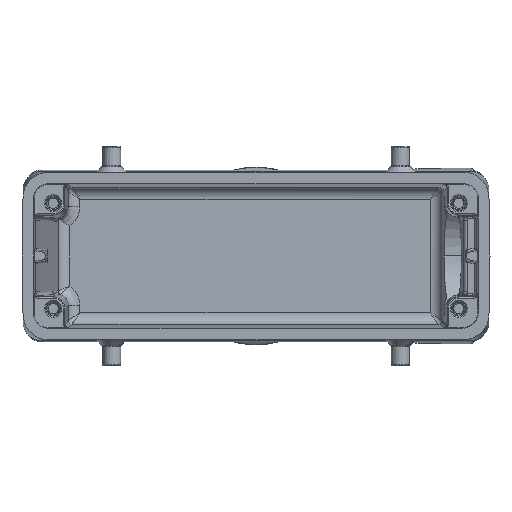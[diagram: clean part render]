
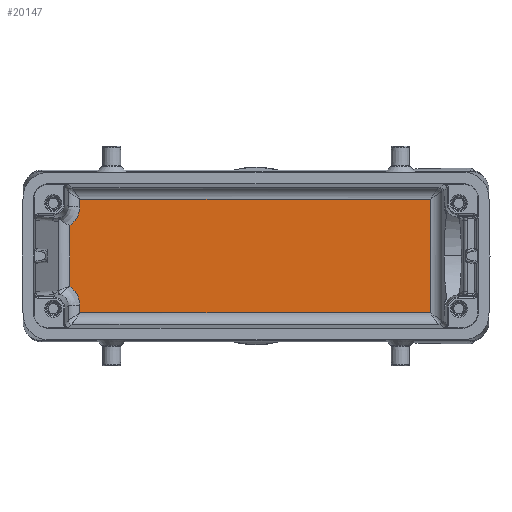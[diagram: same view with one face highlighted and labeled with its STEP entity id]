
A CAD part, front view. The second image highlights one B-rep face of the part: STEP entity #20147.
In plain terms, the highlighted planar face has unit normal (0, -1, 0).
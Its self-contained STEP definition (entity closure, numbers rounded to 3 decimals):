
#158 = CARTESIAN_POINT ( 'NONE',  ( -45.25, 70., -11.727 ) ) ;
#241 = VECTOR ( 'NONE', #23149, 1000. ) ;
#258 = CARTESIAN_POINT ( 'NONE',  ( -45.425, 70., -11.028 ) ) ;
#425 = AXIS2_PLACEMENT_3D ( 'NONE', #1346, #3840, #15683 ) ;
#464 = ORIENTED_EDGE ( 'NONE', *, *, #24510, .T. ) ;
#612 = CARTESIAN_POINT ( 'NONE',  ( -265.727, 70., 14.564 ) ) ;
#1346 = CARTESIAN_POINT ( 'NONE',  ( -51.563, 70., -18.5 ) ) ;
#2339 = CARTESIAN_POINT ( 'NONE',  ( -46.367, 70., -9.091 ) ) ;
#2389 = LINE ( 'NONE', #4407, #4232 ) ;
#2835 = VERTEX_POINT ( 'NONE', #27180 ) ;
#3140 = CARTESIAN_POINT ( 'NONE',  ( -45.191, 70., 12.691 ) ) ;
#3221 = VECTOR ( 'NONE', #9289, 1000. ) ;
#3299 = LINE ( 'NONE', #6672, #4053 ) ;
#3555 = CARTESIAN_POINT ( 'NONE',  ( -46.607, 70., 8.818 ) ) ;
#3676 = VERTEX_POINT ( 'NONE', #8709 ) ;
#3840 = DIRECTION ( 'NONE',  ( 0., -1., 0. ) ) ;
#3945 = LINE ( 'NONE', #6294, #241 ) ;
#4053 = VECTOR ( 'NONE', #21072, 1000. ) ;
#4232 = VECTOR ( 'NONE', #14178, 1000. ) ;
#4407 = CARTESIAN_POINT ( 'NONE',  ( -45.191, 70., -18.5 ) ) ;
#4717 = CARTESIAN_POINT ( 'NONE',  ( -47.759, 70.011, -7.769 ) ) ;
#4916 = CARTESIAN_POINT ( 'NONE',  ( -45.191, 70., -12.691 ) ) ;
#5228 = EDGE_CURVE ( 'NONE', #13120, #10876, #3299, .T. ) ;
#5580 = ORIENTED_EDGE ( 'NONE', *, *, #5228, .T. ) ;
#6213 = CARTESIAN_POINT ( 'NONE',  ( -45.267, 70., 11.731 ) ) ;
#6294 = CARTESIAN_POINT ( 'NONE',  ( -47.759, 70., -18.5 ) ) ;
#6672 = CARTESIAN_POINT ( 'NONE',  ( -45.191, 70., -18.5 ) ) ;
#6923 = CARTESIAN_POINT ( 'NONE',  ( -51.563, 70., -14.564 ) ) ;
#6940 = LINE ( 'NONE', #612, #22764 ) ;
#7087 = CARTESIAN_POINT ( 'NONE',  ( -45.191, 70., 12.691 ) ) ;
#7211 = ORIENTED_EDGE ( 'NONE', *, *, #17647, .T. ) ;
#7277 = VERTEX_POINT ( 'NONE', #30558 ) ;
#7696 = EDGE_CURVE ( 'NONE', #10876, #25851, #28253, .T. ) ;
#7795 = CARTESIAN_POINT ( 'NONE',  ( -45.191, 70., -14.564 ) ) ;
#7988 = EDGE_CURVE ( 'NONE', #30226, #3676, #3945, .T. ) ;
#8169 = CARTESIAN_POINT ( 'NONE',  ( -45.31, 70., 11.495 ) ) ;
#8374 = CARTESIAN_POINT ( 'NONE',  ( -47.759, 70.013, 7.769 ) ) ;
#8471 = B_SPLINE_CURVE_WITH_KNOTS ( 'NONE', 3,
 ( #4717, #16562, #30560, #25895, #16455, #9542, #2339, #9652, #26094, #11808, #28270, #258, #25999, #158, #19032, #4916 ),
 .UNSPECIFIED., .F., .F.,
 ( 4, 1, 2, 2, 2, 1, 2, 2, 4 ),
 ( 0., 0.125, 0.188, 0.25, 0.5, 0.625, 0.688, 0.75, 1. ),
 .UNSPECIFIED. ) ;
#8709 = CARTESIAN_POINT ( 'NONE',  ( -47.759, 70.011, -7.769 ) ) ;
#9289 = DIRECTION ( 'NONE',  ( 1., 0., 0. ) ) ;
#9542 = CARTESIAN_POINT ( 'NONE',  ( -46.766, 70., -8.637 ) ) ;
#9652 = CARTESIAN_POINT ( 'NONE',  ( -46.095, 70., -9.488 ) ) ;
#10352 = LINE ( 'NONE', #30119, #18848 ) ;
#10548 = CARTESIAN_POINT ( 'NONE',  ( -47.003, 70., 8.368 ) ) ;
#10857 = CARTESIAN_POINT ( 'NONE',  ( -45.479, 70., 10.792 ) ) ;
#10876 = VERTEX_POINT ( 'NONE', #7795 ) ;
#11038 = CARTESIAN_POINT ( 'NONE',  ( -47.759, 70.013, 7.769 ) ) ;
#11808 = CARTESIAN_POINT ( 'NONE',  ( -45.613, 70., -10.458 ) ) ;
#12575 = DIRECTION ( 'NONE',  ( -1., 0., 0. ) ) ;
#13103 = VERTEX_POINT ( 'NONE', #7087 ) ;
#13104 = PLANE ( 'NONE',  #425 ) ;
#13120 = VERTEX_POINT ( 'NONE', #23758 ) ;
#13123 = CARTESIAN_POINT ( 'NONE',  ( -46.169, 70., 9.393 ) ) ;
#13637 = DIRECTION ( 'NONE',  ( 0., 0., 1. ) ) ;
#14178 = DIRECTION ( 'NONE',  ( 0., 0., -1. ) ) ;
#15008 = FACE_OUTER_BOUND ( 'NONE', #15726, .T. ) ;
#15159 = EDGE_CURVE ( 'NONE', #25851, #2835, #10352, .T. ) ;
#15591 = CARTESIAN_POINT ( 'NONE',  ( -46.381, 70., 9.102 ) ) ;
#15683 = DIRECTION ( 'NONE',  ( 0., 0., -1. ) ) ;
#15726 = EDGE_LOOP ( 'NONE', ( #5580, #19713, #17712, #26475, #30372, #464, #17132, #7211 ) ) ;
#16455 = CARTESIAN_POINT ( 'NONE',  ( -46.847, 70., -8.551 ) ) ;
#16562 = CARTESIAN_POINT ( 'NONE',  ( -47.56, 70., -7.909 ) ) ;
#17132 = ORIENTED_EDGE ( 'NONE', *, *, #7988, .T. ) ;
#17647 = EDGE_CURVE ( 'NONE', #3676, #13120, #8471, .T. ) ;
#17712 = ORIENTED_EDGE ( 'NONE', *, *, #15159, .T. ) ;
#17762 = CARTESIAN_POINT ( 'NONE',  ( -45.649, 70., 10.342 ) ) ;
#18089 = CARTESIAN_POINT ( 'NONE',  ( -46.529, 70., 8.912 ) ) ;
#18848 = VECTOR ( 'NONE', #13637, 1000. ) ;
#19032 = CARTESIAN_POINT ( 'NONE',  ( -45.192, 70., -12.203 ) ) ;
#19616 = CARTESIAN_POINT ( 'NONE',  ( -45.192, 70., 12.447 ) ) ;
#19713 = ORIENTED_EDGE ( 'NONE', *, *, #7696, .T. ) ;
#20022 = CARTESIAN_POINT ( 'NONE',  ( -47.36, 70., 8.049 ) ) ;
#20147 = ADVANCED_FACE ( 'NONE', ( #15008 ), #13104, .T. ) ;
#20934 = EDGE_CURVE ( 'NONE', #7277, #13103, #2389, .T. ) ;
#21072 = DIRECTION ( 'NONE',  ( 0., 0., -1. ) ) ;
#22764 = VECTOR ( 'NONE', #12575, 1000. ) ;
#23149 = DIRECTION ( 'NONE',  ( 0., 0., -1. ) ) ;
#23758 = CARTESIAN_POINT ( 'NONE',  ( -45.191, 70., -12.691 ) ) ;
#24510 = EDGE_CURVE ( 'NONE', #13103, #30226, #29853, .T. ) ;
#25851 = VERTEX_POINT ( 'NONE', #27753 ) ;
#25895 = CARTESIAN_POINT ( 'NONE',  ( -47.016, 70., -8.381 ) ) ;
#25999 = CARTESIAN_POINT ( 'NONE',  ( -45.392, 70., -11.146 ) ) ;
#26094 = CARTESIAN_POINT ( 'NONE',  ( -45.76, 70., -10.129 ) ) ;
#26475 = ORIENTED_EDGE ( 'NONE', *, *, #29959, .T. ) ;
#27180 = CARTESIAN_POINT ( 'NONE',  ( 44.727, 70., 14.564 ) ) ;
#27322 = CARTESIAN_POINT ( 'NONE',  ( -45.335, 70., 11.38 ) ) ;
#27427 = CARTESIAN_POINT ( 'NONE',  ( -45.214, 70., 12.086 ) ) ;
#27753 = CARTESIAN_POINT ( 'NONE',  ( 44.727, 70., -14.564 ) ) ;
#28253 = LINE ( 'NONE', #6923, #3221 ) ;
#28270 = CARTESIAN_POINT ( 'NONE',  ( -45.496, 70., -10.798 ) ) ;
#29693 = CARTESIAN_POINT ( 'NONE',  ( -45.983, 70., 9.701 ) ) ;
#29853 = B_SPLINE_CURVE_WITH_KNOTS ( 'NONE', 3,
 ( #3140, #19616, #27427, #6213, #8169, #27322, #10857, #17762, #29693, #13123, #15591, #18089, #3555, #10548, #20022, #8374 ),
 .UNSPECIFIED., .F., .F.,
 ( 4, 1, 2, 2, 2, 1, 2, 2, 4 ),
 ( 0., 0.125, 0.187, 0.25, 0.5, 0.625, 0.687, 0.75, 1. ),
 .UNSPECIFIED. ) ;
#29959 = EDGE_CURVE ( 'NONE', #2835, #7277, #6940, .T. ) ;
#30119 = CARTESIAN_POINT ( 'NONE',  ( 44.727, 70., -18.5 ) ) ;
#30226 = VERTEX_POINT ( 'NONE', #11038 ) ;
#30372 = ORIENTED_EDGE ( 'NONE', *, *, #20934, .T. ) ;
#30558 = CARTESIAN_POINT ( 'NONE',  ( -45.191, 70., 14.564 ) ) ;
#30560 = CARTESIAN_POINT ( 'NONE',  ( -47.276, 70., -8.133 ) ) ;
